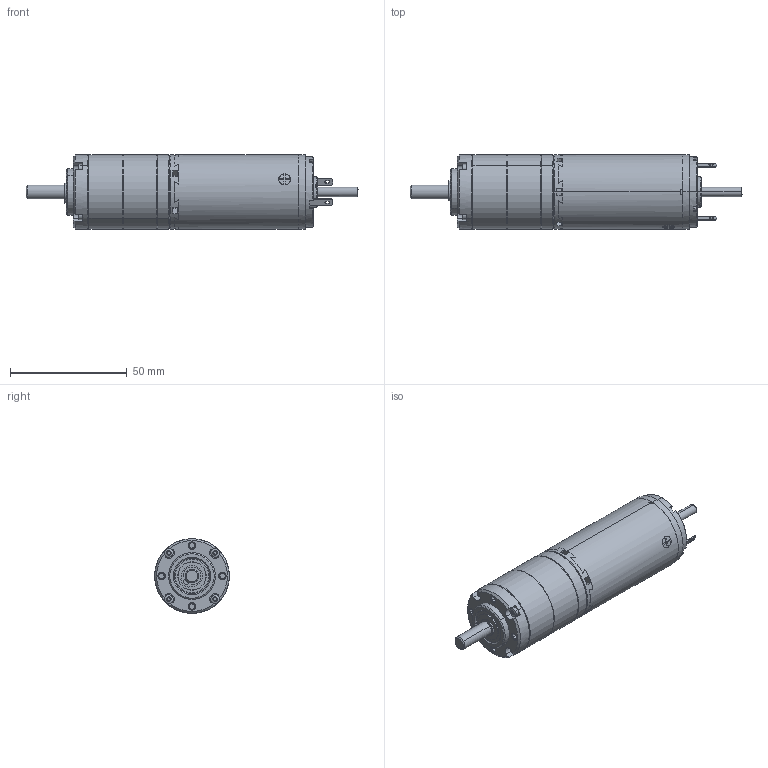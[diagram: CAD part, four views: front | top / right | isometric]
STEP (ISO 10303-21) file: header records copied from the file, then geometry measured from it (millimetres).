
FILE_DESCRIPTION (( 'STEP AP214' ), '1' );
FILE_NAME ('AMAX32GHP+PM32-2etages_2016.STEP', '2016-12-19T15:35:42', ( 'maxon motor' ), ( 'maxon motor' ), 'SwSTEP 2.0', 'SolidWorks 2015', '' );
FILE_SCHEMA (( 'AUTOMOTIVE_DESIGN' ));
Length unit declared in the file: millimetre
Products named in the file (20): GK235_POS13_LAGERBOLZEN_2; GK545_POS22_ABTRIEB_ROHTEIL_AF0_2; DIN998_PS_6X12X0_5_2; D472_15X1_2; Cotﾚ moteur^PM32 pour Amax32; 8002481_MOTORRITZEL_Z17; 8011610_ANLAUFSCHEIBE_G_1ST_2; SCHRAUBEN_1232149; GK235_POS42_DICHTRING_2; P8209_8100249_ZAHNKRANZ_1ST_2; A-max32-236651; AMAX32GHP+PM32-2etages_2016; PM32 pour Amax32_2 etages; 8015677_MOTORFLANSCH; Cotﾚ sortie^PM32 pour Amax32; DIN471_SR_06X00_7_2; FLACHKOPFSCHRAUBE_M2X21_PRECOTE_2; 8101913_LAGERFLANSCH_2; D625-619_6-2Z_2; GK545_POS23_4_ABTRIEB_LK4_KPL_2
Assembly tree (31 placements, depth 5):
  AMAX32GHP+PM32-2etages_2016
    PM32 pour Amax32_2 etages
      P8209_8100249_ZAHNKRANZ_1ST_2  x2
      GK235_POS42_DICHTRING_2
      SCHRAUBEN_1232149  x3
      Cotﾚ moteur^PM32 pour Amax32
        GK235_POS42_DICHTRING_2
        8011610_ANLAUFSCHEIBE_G_1ST_2
        8002481_MOTORRITZEL_Z17
      Cotﾚ sortie^PM32 pour Amax32
        D472_15X1_2
        DIN998_PS_6X12X0_5_2  x2
        GK545_POS23_4_ABTRIEB_LK4_KPL_2
          GK545_POS22_ABTRIEB_ROHTEIL_AF0_2
          GK235_POS13_LAGERBOLZEN_2  x3
        D625-619_6-2Z_2  x2
        8101913_LAGERFLANSCH_2
        FLACHKOPFSCHRAUBE_M2X21_PRECOTE_2  x4
        DIN471_SR_06X00_7_2
        GK235_POS42_DICHTRING_2
      8015677_MOTORFLANSCH
    A-max32-236651
Bounding box: 142.4 x 32 x 32 mm (x, y, z)
Volume: 13981.8 mm3; surface area: 35932.7 mm2
Topology: 21 solids, 53 shells, 1954 faces, 5257 edges, 3433 vertices
Faces by surface type: cylinder 909, plane 696, cone 180, torus 111, bspline 50, sphere 8
Entity records: 67697 total; most frequent: CARTESIAN_POINT 18522, ORIENTED_EDGE 8073, DIRECTION 8058, EDGE_CURVE 4058, AXIS2_PLACEMENT_3D 3076, VERTEX_POINT 2656, LINE 1906, VECTOR 1906
